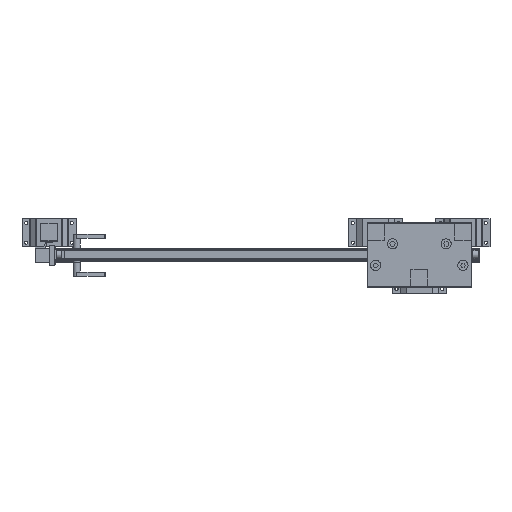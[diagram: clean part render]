
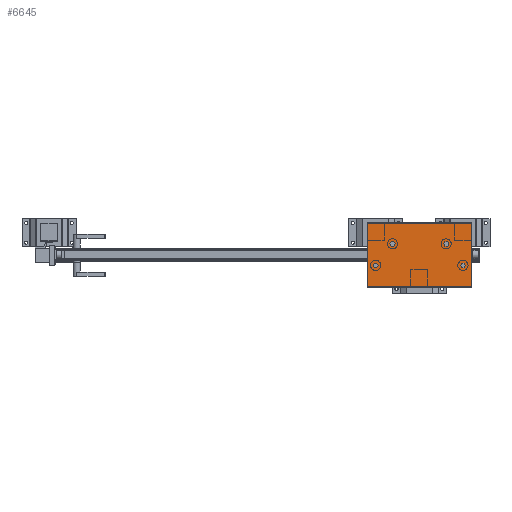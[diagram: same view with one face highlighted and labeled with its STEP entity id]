
A CAD part, top view. The second image highlights one B-rep face of the part: STEP entity #6645.
In plain terms, the highlighted planar face has unit normal (0, 0, 1).
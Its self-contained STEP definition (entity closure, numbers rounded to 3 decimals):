
#823=FACE_OUTER_BOUND('',#1352,.T.);
#1352=EDGE_LOOP('',(#4971,#4972,#4973,#4974));
#2050=VERTEX_POINT('',#16642);
#2051=VERTEX_POINT('',#16643);
#2052=VERTEX_POINT('',#16645);
#2053=VERTEX_POINT('',#16647);
#3076=EDGE_CURVE('',#2050,#2051,#8140,.T.);
#3077=EDGE_CURVE('',#2052,#2050,#8141,.T.);
#3078=EDGE_CURVE('',#2052,#2053,#8142,.T.);
#3079=EDGE_CURVE('',#2051,#2053,#8143,.T.);
#4971=ORIENTED_EDGE('',*,*,#3076,.F.);
#4972=ORIENTED_EDGE('',*,*,#3077,.F.);
#4973=ORIENTED_EDGE('',*,*,#3078,.T.);
#4974=ORIENTED_EDGE('',*,*,#3079,.F.);
#6153=PLANE('',#10186);
#6645=ADVANCED_FACE('',(#823),#6153,.T.);
#8140=LINE('',#16644,#9332);
#8141=LINE('',#16646,#9333);
#8142=LINE('',#16648,#9334);
#8143=LINE('',#16649,#9335);
#9332=VECTOR('',#12148,1.);
#9333=VECTOR('',#12149,1.);
#9334=VECTOR('',#12150,1.);
#9335=VECTOR('',#12151,1.);
#10186=AXIS2_PLACEMENT_3D('',#16641,#12146,#12147);
#12146=DIRECTION('center_axis',(0.,0.,1.));
#12147=DIRECTION('ref_axis',(1.,0.,0.));
#12148=DIRECTION('',(0.,1.,0.));
#12149=DIRECTION('',(-1.,0.,0.));
#12150=DIRECTION('',(0.,1.,0.));
#12151=DIRECTION('',(1.,0.,0.));
#16641=CARTESIAN_POINT('Origin',(2968.517,1887.18,2333.));
#16642=CARTESIAN_POINT('',(2968.517,1887.18,2333.));
#16643=CARTESIAN_POINT('',(2968.517,2117.18,2333.));
#16644=CARTESIAN_POINT('',(2968.517,1887.18,2333.));
#16645=CARTESIAN_POINT('',(3338.517,1887.18,2333.));
#16646=CARTESIAN_POINT('',(3338.517,1887.18,2333.));
#16647=CARTESIAN_POINT('',(3338.517,2117.18,2333.));
#16648=CARTESIAN_POINT('',(3338.517,1887.18,2333.));
#16649=CARTESIAN_POINT('',(3153.517,2117.18,2333.));
